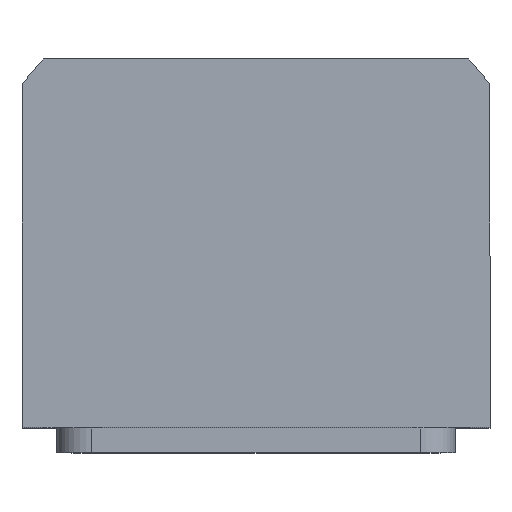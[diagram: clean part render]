
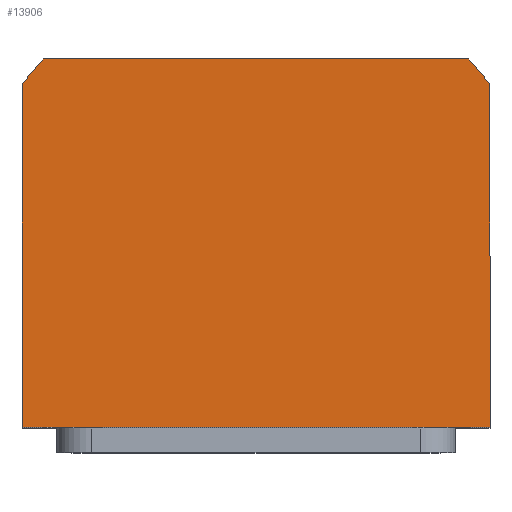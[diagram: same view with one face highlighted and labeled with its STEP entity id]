
A CAD part, top view. The second image highlights one B-rep face of the part: STEP entity #13906.
In plain terms, the highlighted planar face has unit normal (0, 0, 1).
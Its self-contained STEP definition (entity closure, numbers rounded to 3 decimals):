
#599 = ORIENTED_EDGE ( 'NONE', *, *, #3292, .T. ) ;
#698 = CARTESIAN_POINT ( 'NONE',  ( -47., -34., 55. ) ) ;
#841 = CIRCLE ( 'NONE', #10439, 58.5 ) ;
#1108 = CARTESIAN_POINT ( 'NONE',  ( 42.688, 40., 55. ) ) ;
#1833 = CARTESIAN_POINT ( 'NONE',  ( -42.688, 40., 55. ) ) ;
#2176 = DIRECTION ( 'NONE',  ( -1., 0., 0. ) ) ;
#2372 = DIRECTION ( 'NONE',  ( 0., 0., 1. ) ) ;
#2771 = CARTESIAN_POINT ( 'NONE',  ( -47., 34.832, 55. ) ) ;
#3074 = CARTESIAN_POINT ( 'NONE',  ( -42.688, 40., 55. ) ) ;
#3292 = EDGE_CURVE ( 'NONE', #8610, #13668, #5085, .T. ) ;
#3438 = EDGE_CURVE ( 'NONE', #14203, #8698, #8929, .T. ) ;
#3699 = DIRECTION ( 'NONE',  ( 1., 0., 0. ) ) ;
#3724 = EDGE_CURVE ( 'NONE', #8698, #6296, #13670, .T. ) ;
#4073 = EDGE_LOOP ( 'NONE', ( #12920, #13704, #11925, #10669, #599, #6442 ) ) ;
#4328 = EDGE_CURVE ( 'NONE', #6296, #7166, #841, .T. ) ;
#4849 = EDGE_CURVE ( 'NONE', #13668, #14203, #13712, .T. ) ;
#5085 = CIRCLE ( 'NONE', #7882, 58.5 ) ;
#5090 = CARTESIAN_POINT ( 'NONE',  ( 0., 0., 55. ) ) ;
#5846 = DIRECTION ( 'NONE',  ( 0., 0., 1. ) ) ;
#6296 = VERTEX_POINT ( 'NONE', #10401 ) ;
#6442 = ORIENTED_EDGE ( 'NONE', *, *, #4849, .T. ) ;
#6662 = DIRECTION ( 'NONE',  ( 0., 0., 1. ) ) ;
#6888 = CARTESIAN_POINT ( 'NONE',  ( 47., -34., 55. ) ) ;
#7166 = VERTEX_POINT ( 'NONE', #1108 ) ;
#7578 = DIRECTION ( 'NONE',  ( 0., -1., 0. ) ) ;
#7882 = AXIS2_PLACEMENT_3D ( 'NONE', #5090, #2372, #3699 ) ;
#8267 = CARTESIAN_POINT ( 'NONE',  ( 0., 0., 55. ) ) ;
#8574 = VECTOR ( 'NONE', #2176, 1000. ) ;
#8610 = VERTEX_POINT ( 'NONE', #3074 ) ;
#8698 = VERTEX_POINT ( 'NONE', #12003 ) ;
#8929 = LINE ( 'NONE', #6888, #10956 ) ;
#9147 = DIRECTION ( 'NONE',  ( 1., 0., 0. ) ) ;
#9672 = CARTESIAN_POINT ( 'NONE',  ( 47., 34.832, 55. ) ) ;
#9782 = EDGE_CURVE ( 'NONE', #7166, #8610, #13097, .T. ) ;
#10401 = CARTESIAN_POINT ( 'NONE',  ( 47., 34.832, 55. ) ) ;
#10408 = VECTOR ( 'NONE', #12013, 1000. ) ;
#10439 = AXIS2_PLACEMENT_3D ( 'NONE', #8267, #5846, #15189 ) ;
#10669 = ORIENTED_EDGE ( 'NONE', *, *, #9782, .T. ) ;
#10731 = CARTESIAN_POINT ( 'NONE',  ( -47., -34., 55. ) ) ;
#10956 = VECTOR ( 'NONE', #11523, 1000. ) ;
#11151 = VECTOR ( 'NONE', #7578, 1000. ) ;
#11523 = DIRECTION ( 'NONE',  ( 1., 0., 0. ) ) ;
#11925 = ORIENTED_EDGE ( 'NONE', *, *, #4328, .T. ) ;
#12003 = CARTESIAN_POINT ( 'NONE',  ( 47., -34., 55. ) ) ;
#12013 = DIRECTION ( 'NONE',  ( 0., 1., 0. ) ) ;
#12298 = AXIS2_PLACEMENT_3D ( 'NONE', #15044, #6662, #9147 ) ;
#12920 = ORIENTED_EDGE ( 'NONE', *, *, #3438, .T. ) ;
#13097 = LINE ( 'NONE', #1833, #8574 ) ;
#13668 = VERTEX_POINT ( 'NONE', #2771 ) ;
#13670 = LINE ( 'NONE', #9672, #10408 ) ;
#13704 = ORIENTED_EDGE ( 'NONE', *, *, #3724, .T. ) ;
#13712 = LINE ( 'NONE', #698, #11151 ) ;
#13906 = ADVANCED_FACE ( 'NONE', ( #15001 ), #14996, .T. ) ;
#14203 = VERTEX_POINT ( 'NONE', #10731 ) ;
#14996 = PLANE ( 'NONE',  #12298 ) ;
#15001 = FACE_OUTER_BOUND ( 'NONE', #4073, .T. ) ;
#15044 = CARTESIAN_POINT ( 'NONE',  ( 0., 0., 55. ) ) ;
#15189 = DIRECTION ( 'NONE',  ( 1., 0., 0. ) ) ;
